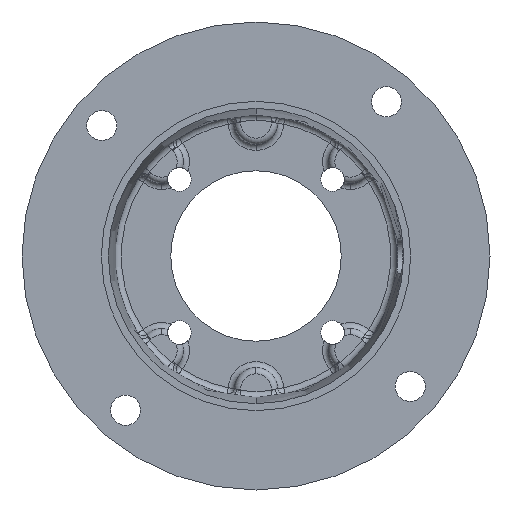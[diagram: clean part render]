
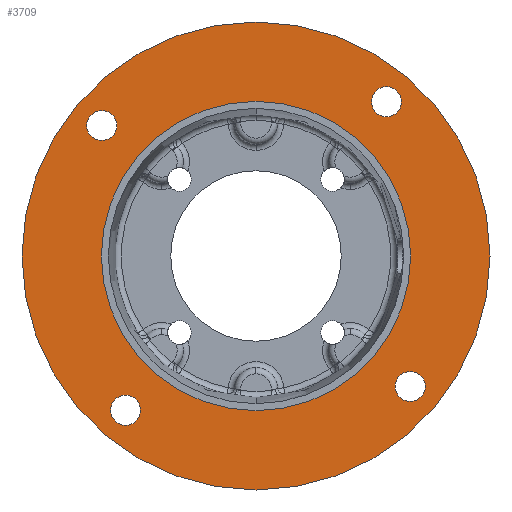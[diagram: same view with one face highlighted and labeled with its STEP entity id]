
A CAD part, front view. The second image highlights one B-rep face of the part: STEP entity #3709.
In plain terms, the highlighted planar face has unit normal (0, -1, 0).
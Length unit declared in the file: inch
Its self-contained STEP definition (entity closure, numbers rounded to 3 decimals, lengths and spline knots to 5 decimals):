
#95 = DIRECTION ( 'NONE',  ( 0., -1., 0. ) ) ;
#153 = EDGE_CURVE ( 'NONE', #2407, #5459, #3138, .T. ) ;
#296 = VERTEX_POINT ( 'NONE', #5956 ) ;
#337 = EDGE_CURVE ( 'NONE', #943, #7557, #7371, .T. ) ;
#340 = EDGE_CURVE ( 'NONE', #5459, #2407, #3886, .T. ) ;
#399 = AXIS2_PLACEMENT_3D ( 'NONE', #4500, #8665, #4527 ) ;
#479 = DIRECTION ( 'NONE',  ( 0., 0., -1. ) ) ;
#593 = CIRCLE ( 'NONE', #2498, 2.2505 ) ;
#640 = VERTEX_POINT ( 'NONE', #6383 ) ;
#648 = VERTEX_POINT ( 'NONE', #847 ) ;
#808 = FACE_BOUND ( 'NONE', #1601, .T. ) ;
#847 = CARTESIAN_POINT ( 'NONE',  ( 0., 0.103, -3.405 ) ) ;
#943 = VERTEX_POINT ( 'NONE', #3488 ) ;
#958 = AXIS2_PLACEMENT_3D ( 'NONE', #1316, #6189, #2020 ) ;
#979 = EDGE_CURVE ( 'NONE', #6506, #296, #593, .T. ) ;
#1026 = EDGE_CURVE ( 'NONE', #4157, #4780, #5729, .T. ) ;
#1084 = CARTESIAN_POINT ( 'NONE',  ( 0., 0.103, 0. ) ) ;
#1173 = EDGE_CURVE ( 'NONE', #296, #6506, #4019, .T. ) ;
#1307 = DIRECTION ( 'NONE',  ( 0., -1., 0. ) ) ;
#1316 = CARTESIAN_POINT ( 'NONE',  ( -1.89861, 0.103, -2.24475 ) ) ;
#1433 = CARTESIAN_POINT ( 'NONE',  ( 0., 0.103, 0. ) ) ;
#1453 = AXIS2_PLACEMENT_3D ( 'NONE', #5484, #1307, #6170 ) ;
#1601 = EDGE_LOOP ( 'NONE', ( #7846, #2657 ) ) ;
#1784 = DIRECTION ( 'NONE',  ( 0., 0., -1. ) ) ;
#1858 = AXIS2_PLACEMENT_3D ( 'NONE', #2192, #7068, #2900 ) ;
#1873 = EDGE_CURVE ( 'NONE', #4780, #4157, #2387, .T. ) ;
#1875 = DIRECTION ( 'NONE',  ( 0., -1., 0. ) ) ;
#2020 = DIRECTION ( 'NONE',  ( 0., 0., -1. ) ) ;
#2134 = DIRECTION ( 'NONE',  ( 0., 0., -1. ) ) ;
#2157 = CARTESIAN_POINT ( 'NONE',  ( 1.89861, 0.103, 2.4635 ) ) ;
#2192 = CARTESIAN_POINT ( 'NONE',  ( 0., 0.103, 0. ) ) ;
#2260 = DIRECTION ( 'NONE',  ( 0., -1., 0. ) ) ;
#2387 = CIRCLE ( 'NONE', #1453, 0.21875 ) ;
#2407 = VERTEX_POINT ( 'NONE', #4630 ) ;
#2498 = AXIS2_PLACEMENT_3D ( 'NONE', #4258, #95, #4958 ) ;
#2633 = FACE_BOUND ( 'NONE', #4974, .T. ) ;
#2636 = CARTESIAN_POINT ( 'NONE',  ( -1.89861, 0.103, -2.4635 ) ) ;
#2657 = ORIENTED_EDGE ( 'NONE', *, *, #2692, .F. ) ;
#2692 = EDGE_CURVE ( 'NONE', #640, #7275, #8832, .T. ) ;
#2823 = CIRCLE ( 'NONE', #5670, 3.405 ) ;
#2845 = CARTESIAN_POINT ( 'NONE',  ( 2.24475, 0.103, -2.11736 ) ) ;
#2874 = CARTESIAN_POINT ( 'NONE',  ( 2.24475, 0.103, -1.67986 ) ) ;
#2900 = DIRECTION ( 'NONE',  ( 0., 0., -1. ) ) ;
#2914 = DIRECTION ( 'NONE',  ( 0., -1., 0. ) ) ;
#3040 = DIRECTION ( 'NONE',  ( 0., -1., 0. ) ) ;
#3138 = CIRCLE ( 'NONE', #6774, 0.21875 ) ;
#3488 = CARTESIAN_POINT ( 'NONE',  ( -2.24475, 0.103, 2.11736 ) ) ;
#3625 = ORIENTED_EDGE ( 'NONE', *, *, #5122, .F. ) ;
#3709 = ADVANCED_FACE ( 'NONE', ( #2633, #6349, #4523, #808, #7977, #8170 ), #6584, .T. ) ;
#3751 = DIRECTION ( 'NONE',  ( 0., -1., 0. ) ) ;
#3790 = ORIENTED_EDGE ( 'NONE', *, *, #1173, .F. ) ;
#3794 = EDGE_LOOP ( 'NONE', ( #3625, #4860 ) ) ;
#3886 = CIRCLE ( 'NONE', #5834, 0.21875 ) ;
#3914 = CIRCLE ( 'NONE', #8813, 0.21875 ) ;
#4019 = CIRCLE ( 'NONE', #1858, 2.2505 ) ;
#4072 = CARTESIAN_POINT ( 'NONE',  ( 0., 0.103, -2.2505 ) ) ;
#4157 = VERTEX_POINT ( 'NONE', #2845 ) ;
#4258 = CARTESIAN_POINT ( 'NONE',  ( 0., 0.103, 0. ) ) ;
#4383 = AXIS2_PLACEMENT_3D ( 'NONE', #7088, #2914, #7775 ) ;
#4500 = CARTESIAN_POINT ( 'NONE',  ( 0., 0.103, 0. ) ) ;
#4523 = FACE_BOUND ( 'NONE', #7197, .T. ) ;
#4527 = DIRECTION ( 'NONE',  ( 0., 0., -1. ) ) ;
#4630 = CARTESIAN_POINT ( 'NONE',  ( 1.89861, 0.103, 2.026 ) ) ;
#4664 = DIRECTION ( 'NONE',  ( 0., -1., 0. ) ) ;
#4780 = VERTEX_POINT ( 'NONE', #2874 ) ;
#4860 = ORIENTED_EDGE ( 'NONE', *, *, #337, .F. ) ;
#4890 = AXIS2_PLACEMENT_3D ( 'NONE', #8792, #4664, #479 ) ;
#4958 = DIRECTION ( 'NONE',  ( 0., 0., -1. ) ) ;
#4974 = EDGE_LOOP ( 'NONE', ( #5036, #8231 ) ) ;
#5036 = ORIENTED_EDGE ( 'NONE', *, *, #153, .F. ) ;
#5122 = EDGE_CURVE ( 'NONE', #7557, #943, #3914, .T. ) ;
#5223 = EDGE_CURVE ( 'NONE', #648, #5967, #6729, .T. ) ;
#5459 = VERTEX_POINT ( 'NONE', #2157 ) ;
#5484 = CARTESIAN_POINT ( 'NONE',  ( 2.24475, 0.103, -1.89861 ) ) ;
#5502 = EDGE_CURVE ( 'NONE', #7275, #640, #7060, .T. ) ;
#5572 = CARTESIAN_POINT ( 'NONE',  ( 0., 0.103, 3.405 ) ) ;
#5670 = AXIS2_PLACEMENT_3D ( 'NONE', #1433, #6302, #2134 ) ;
#5729 = CIRCLE ( 'NONE', #4383, 0.21875 ) ;
#5834 = AXIS2_PLACEMENT_3D ( 'NONE', #6038, #1875, #6738 ) ;
#5892 = AXIS2_PLACEMENT_3D ( 'NONE', #1084, #5946, #1784 ) ;
#5946 = DIRECTION ( 'NONE',  ( 0., -1., 0. ) ) ;
#5956 = CARTESIAN_POINT ( 'NONE',  ( 0., 0.103, 2.2505 ) ) ;
#5967 = VERTEX_POINT ( 'NONE', #5572 ) ;
#6038 = CARTESIAN_POINT ( 'NONE',  ( 1.89861, 0.103, 2.24475 ) ) ;
#6118 = ORIENTED_EDGE ( 'NONE', *, *, #5223, .T. ) ;
#6136 = CARTESIAN_POINT ( 'NONE',  ( -2.24475, 0.103, 1.89861 ) ) ;
#6170 = DIRECTION ( 'NONE',  ( 0., 0., -1. ) ) ;
#6189 = DIRECTION ( 'NONE',  ( 0., -1., 0. ) ) ;
#6302 = DIRECTION ( 'NONE',  ( 0., -1., 0. ) ) ;
#6349 = FACE_BOUND ( 'NONE', #3794, .T. ) ;
#6383 = CARTESIAN_POINT ( 'NONE',  ( -1.89861, 0.103, -2.026 ) ) ;
#6434 = CARTESIAN_POINT ( 'NONE',  ( -1.89861, 0.103, -2.24475 ) ) ;
#6506 = VERTEX_POINT ( 'NONE', #4072 ) ;
#6584 = PLANE ( 'NONE',  #399 ) ;
#6729 = CIRCLE ( 'NONE', #5892, 3.405 ) ;
#6738 = DIRECTION ( 'NONE',  ( 0., 0., -1. ) ) ;
#6774 = AXIS2_PLACEMENT_3D ( 'NONE', #7901, #3751, #8596 ) ;
#7060 = CIRCLE ( 'NONE', #7110, 0.21875 ) ;
#7068 = DIRECTION ( 'NONE',  ( 0., -1., 0. ) ) ;
#7088 = CARTESIAN_POINT ( 'NONE',  ( 2.24475, 0.103, -1.89861 ) ) ;
#7110 = AXIS2_PLACEMENT_3D ( 'NONE', #6434, #2260, #7129 ) ;
#7129 = DIRECTION ( 'NONE',  ( 0., 0., -1. ) ) ;
#7148 = ORIENTED_EDGE ( 'NONE', *, *, #8143, .T. ) ;
#7197 = EDGE_LOOP ( 'NONE', ( #8663, #7884 ) ) ;
#7275 = VERTEX_POINT ( 'NONE', #2636 ) ;
#7371 = CIRCLE ( 'NONE', #4890, 0.21875 ) ;
#7557 = VERTEX_POINT ( 'NONE', #8768 ) ;
#7775 = DIRECTION ( 'NONE',  ( 0., 0., -1. ) ) ;
#7783 = ORIENTED_EDGE ( 'NONE', *, *, #979, .F. ) ;
#7846 = ORIENTED_EDGE ( 'NONE', *, *, #5502, .F. ) ;
#7884 = ORIENTED_EDGE ( 'NONE', *, *, #1873, .F. ) ;
#7892 = DIRECTION ( 'NONE',  ( 0., 0., -1. ) ) ;
#7901 = CARTESIAN_POINT ( 'NONE',  ( 1.89861, 0.103, 2.24475 ) ) ;
#7977 = FACE_BOUND ( 'NONE', #8611, .T. ) ;
#8143 = EDGE_CURVE ( 'NONE', #5967, #648, #2823, .T. ) ;
#8170 = FACE_OUTER_BOUND ( 'NONE', #8251, .T. ) ;
#8231 = ORIENTED_EDGE ( 'NONE', *, *, #340, .F. ) ;
#8251 = EDGE_LOOP ( 'NONE', ( #6118, #7148 ) ) ;
#8596 = DIRECTION ( 'NONE',  ( 0., 0., -1. ) ) ;
#8611 = EDGE_LOOP ( 'NONE', ( #7783, #3790 ) ) ;
#8663 = ORIENTED_EDGE ( 'NONE', *, *, #1026, .F. ) ;
#8665 = DIRECTION ( 'NONE',  ( 0., -1., 0. ) ) ;
#8768 = CARTESIAN_POINT ( 'NONE',  ( -2.24475, 0.103, 1.67986 ) ) ;
#8792 = CARTESIAN_POINT ( 'NONE',  ( -2.24475, 0.103, 1.89861 ) ) ;
#8813 = AXIS2_PLACEMENT_3D ( 'NONE', #6136, #3040, #7892 ) ;
#8832 = CIRCLE ( 'NONE', #958, 0.21875 ) ;
